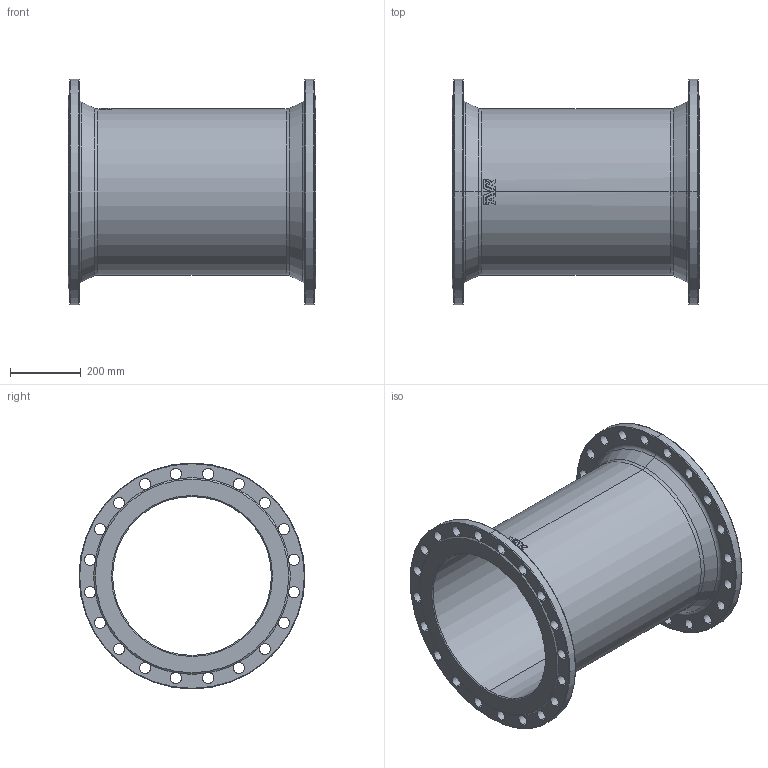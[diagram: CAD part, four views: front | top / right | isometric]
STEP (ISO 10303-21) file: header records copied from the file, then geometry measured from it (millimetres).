
FILE_DESCRIPTION (( 'STEP AP203' ), '1' );
FILE_NAME ('O_712_5010_DN450_1X_REV01.step', '2021-12-03T10:20:22', ( '' ), ( '' ), 'SwSTEP 2.0', 'SolidWorks 2019', '' );
FILE_SCHEMA (( 'CONFIG_CONTROL_DESIGN' ));
Length unit declared in the file: millimetre
Products named in the file (1): O_712_5010_DN450_1X_REV01
Bounding box: 700 x 640 x 640 mm (x, y, z)
Volume: 19665074.1 mm3; surface area: 2643228.7 mm2
Topology: 1 solids, 1 shells, 164 faces, 559 edges, 364 vertices
Faces by surface type: cylinder 93, plane 26, bspline 17, torus 16, cone 12
Entity records: 7786 total; most frequent: CARTESIAN_POINT 2623, ORIENTED_EDGE 1118, DIRECTION 1103, EDGE_CURVE 559, AXIS2_PLACEMENT_3D 478, VERTEX_POINT 364, CIRCLE 330, EDGE_LOOP 213
